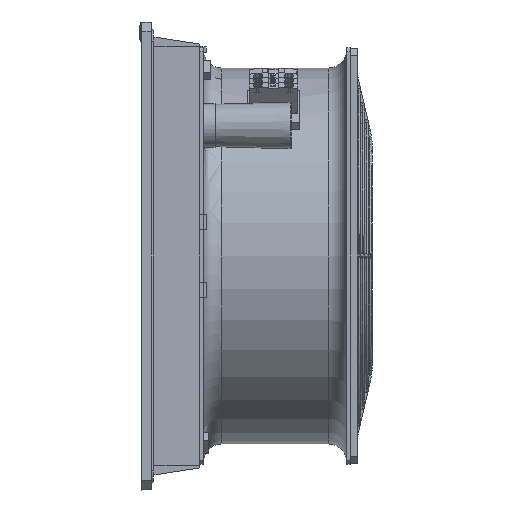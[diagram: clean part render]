
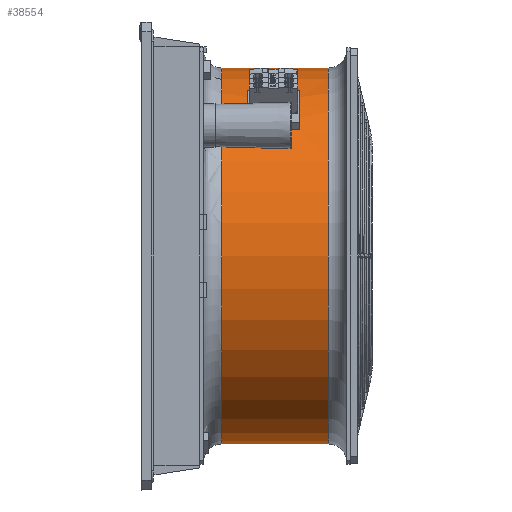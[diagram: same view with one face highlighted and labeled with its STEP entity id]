
A CAD part, left-side view. The second image highlights one B-rep face of the part: STEP entity #38554.
In plain terms, the highlighted cylindrical face has radius 128.5 mm (diameter 257 mm), a partial arc.
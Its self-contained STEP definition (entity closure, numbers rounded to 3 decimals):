
#2217 = AXIS2_PLACEMENT_3D ( 'NONE', #11117, #55512, #17508 ) ;
#2467 = VECTOR ( 'NONE', #10604, 1000. ) ;
#2552 = ORIENTED_EDGE ( 'NONE', *, *, #33459, .T. ) ;
#2783 = CARTESIAN_POINT ( 'NONE',  ( 0., 146.307, -128.5 ) ) ;
#2879 = VECTOR ( 'NONE', #78842, 1000. ) ;
#5339 = ORIENTED_EDGE ( 'NONE', *, *, #76341, .T. ) ;
#5980 = VERTEX_POINT ( 'NONE', #43592 ) ;
#6102 = CARTESIAN_POINT ( 'NONE',  ( 94.895, 33., 86.644 ) ) ;
#6256 = ORIENTED_EDGE ( 'NONE', *, *, #13135, .T. ) ;
#6468 = CIRCLE ( 'NONE', #72826, 128.5 ) ;
#7897 = FACE_OUTER_BOUND ( 'NONE', #32919, .T. ) ;
#10604 = DIRECTION ( 'NONE',  ( 0., 1., 0. ) ) ;
#11117 = CARTESIAN_POINT ( 'NONE',  ( 0., 15., 0. ) ) ;
#12330 = DIRECTION ( 'NONE',  ( 0., 0., 1. ) ) ;
#13111 = VECTOR ( 'NONE', #21657, 1000. ) ;
#13135 = EDGE_CURVE ( 'NONE', #31753, #57355, #27268, .T. ) ;
#14835 = VERTEX_POINT ( 'NONE', #28417 ) ;
#16695 = CARTESIAN_POINT ( 'NONE',  ( 94.895, 146.307, 86.644 ) ) ;
#17357 = VERTEX_POINT ( 'NONE', #43952 ) ;
#17508 = DIRECTION ( 'NONE',  ( 0., 0., 1. ) ) ;
#18158 = DIRECTION ( 'NONE',  ( 0., 1., 0. ) ) ;
#21506 = ORIENTED_EDGE ( 'NONE', *, *, #38927, .T. ) ;
#21657 = DIRECTION ( 'NONE',  ( 0., 1., 0. ) ) ;
#22666 = ORIENTED_EDGE ( 'NONE', *, *, #33773, .F. ) ;
#22941 = ORIENTED_EDGE ( 'NONE', *, *, #70842, .T. ) ;
#24257 = CIRCLE ( 'NONE', #2217, 128.5 ) ;
#24778 = FACE_BOUND ( 'NONE', #47574, .T. ) ;
#26129 = LINE ( 'NONE', #37422, #74738 ) ;
#26219 = CARTESIAN_POINT ( 'NONE',  ( 68.849, 68., 108.499 ) ) ;
#27121 = EDGE_CURVE ( 'NONE', #61442, #14835, #65723, .T. ) ;
#27268 = CIRCLE ( 'NONE', #38569, 128.5 ) ;
#28417 = CARTESIAN_POINT ( 'NONE',  ( 0., 88., -128.5 ) ) ;
#28763 = ORIENTED_EDGE ( 'NONE', *, *, #27121, .T. ) ;
#29534 = DIRECTION ( 'NONE',  ( 0., -1., 0. ) ) ;
#29711 = DIRECTION ( 'NONE',  ( 0., 1., 0. ) ) ;
#31426 = CARTESIAN_POINT ( 'NONE',  ( 94.895, 68., 86.644 ) ) ;
#31753 = VERTEX_POINT ( 'NONE', #26219 ) ;
#32919 = EDGE_LOOP ( 'NONE', ( #5339, #28763, #22666, #61030 ) ) ;
#33459 = EDGE_CURVE ( 'NONE', #67006, #17357, #6468, .T. ) ;
#33773 = EDGE_CURVE ( 'NONE', #39836, #14835, #43151, .T. ) ;
#34135 = CARTESIAN_POINT ( 'NONE',  ( 0., 68., 0. ) ) ;
#35759 = CARTESIAN_POINT ( 'NONE',  ( 0., 15., -128.5 ) ) ;
#37422 = CARTESIAN_POINT ( 'NONE',  ( 0., 146.307, 128.5 ) ) ;
#38554 = ADVANCED_FACE ( 'NONE', ( #24778, #7897 ), #39676, .T. ) ;
#38569 = AXIS2_PLACEMENT_3D ( 'NONE', #34135, #78509, #40557 ) ;
#38927 = EDGE_CURVE ( 'NONE', #57355, #67006, #51543, .T. ) ;
#39676 = CYLINDRICAL_SURFACE ( 'NONE', #77315, 128.5 ) ;
#39836 = VERTEX_POINT ( 'NONE', #53670 ) ;
#40557 = DIRECTION ( 'NONE',  ( -1., 0., 0. ) ) ;
#43151 = CIRCLE ( 'NONE', #50021, 128.5 ) ;
#43592 = CARTESIAN_POINT ( 'NONE',  ( 0., 15., 128.5 ) ) ;
#43952 = CARTESIAN_POINT ( 'NONE',  ( 68.849, 33., 108.499 ) ) ;
#47574 = EDGE_LOOP ( 'NONE', ( #2552, #22941, #6256, #21506 ) ) ;
#48609 = CARTESIAN_POINT ( 'NONE',  ( 68.849, 146.307, 108.499 ) ) ;
#50021 = AXIS2_PLACEMENT_3D ( 'NONE', #67658, #29711, #74047 ) ;
#51142 = LINE ( 'NONE', #48609, #2467 ) ;
#51543 = LINE ( 'NONE', #16695, #2879 ) ;
#53670 = CARTESIAN_POINT ( 'NONE',  ( 0., 88., 128.5 ) ) ;
#55512 = DIRECTION ( 'NONE',  ( 0., 1., 0. ) ) ;
#56713 = CARTESIAN_POINT ( 'NONE',  ( 0., 146.307, 0. ) ) ;
#57355 = VERTEX_POINT ( 'NONE', #31426 ) ;
#61030 = ORIENTED_EDGE ( 'NONE', *, *, #72325, .F. ) ;
#61442 = VERTEX_POINT ( 'NONE', #35759 ) ;
#65723 = LINE ( 'NONE', #2783, #13111 ) ;
#67006 = VERTEX_POINT ( 'NONE', #6102 ) ;
#67480 = CARTESIAN_POINT ( 'NONE',  ( 0., 33., 0. ) ) ;
#67658 = CARTESIAN_POINT ( 'NONE',  ( 0., 88., 0. ) ) ;
#70842 = EDGE_CURVE ( 'NONE', #17357, #31753, #51142, .T. ) ;
#72325 = EDGE_CURVE ( 'NONE', #5980, #39836, #26129, .T. ) ;
#72826 = AXIS2_PLACEMENT_3D ( 'NONE', #67480, #29534, #73844 ) ;
#73844 = DIRECTION ( 'NONE',  ( 1., 0., 0. ) ) ;
#74047 = DIRECTION ( 'NONE',  ( 0., 0., 1. ) ) ;
#74738 = VECTOR ( 'NONE', #75403, 1000. ) ;
#75403 = DIRECTION ( 'NONE',  ( 0., 1., 0. ) ) ;
#76341 = EDGE_CURVE ( 'NONE', #5980, #61442, #24257, .T. ) ;
#77315 = AXIS2_PLACEMENT_3D ( 'NONE', #56713, #18158, #12330 ) ;
#78509 = DIRECTION ( 'NONE',  ( 0., 1., 0. ) ) ;
#78842 = DIRECTION ( 'NONE',  ( 0., -1., 0. ) ) ;
